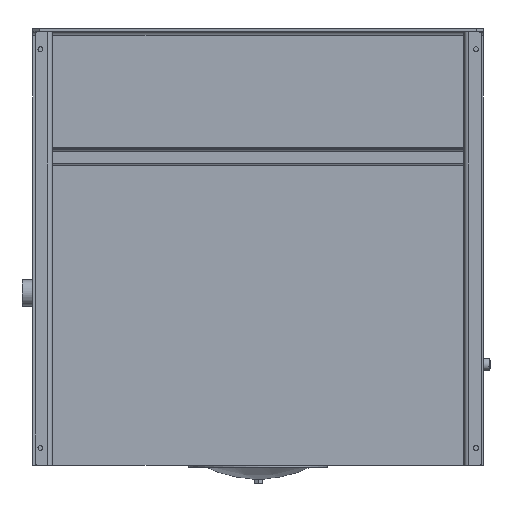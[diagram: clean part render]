
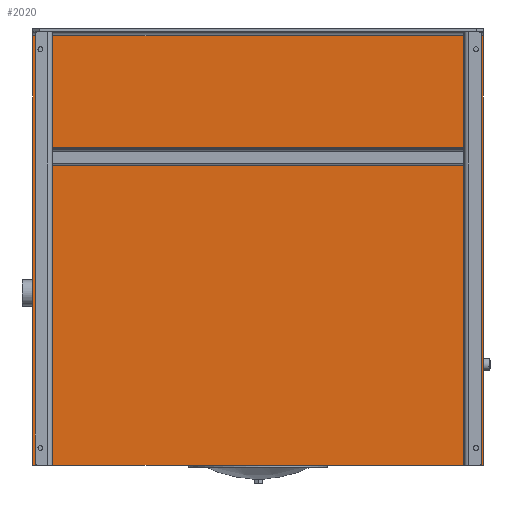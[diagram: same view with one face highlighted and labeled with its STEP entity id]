
A CAD part, front view. The second image highlights one B-rep face of the part: STEP entity #2020.
In plain terms, the highlighted planar face has unit normal (0, -1, 0).
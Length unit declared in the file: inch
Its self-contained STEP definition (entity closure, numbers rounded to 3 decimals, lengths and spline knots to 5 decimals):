
#145 = DIRECTION ( 'NONE',  ( 0., 0., -1. ) ) ;
#318 = CARTESIAN_POINT ( 'NONE',  ( 21.77512, -0.41019, 27.93271 ) ) ;
#436 = VERTEX_POINT ( 'NONE', #16967 ) ;
#1286 = VERTEX_POINT ( 'NONE', #11025 ) ;
#1788 = VECTOR ( 'NONE', #6428, 39.37008 ) ;
#1934 = DIRECTION ( 'NONE',  ( 0., 0., -1. ) ) ;
#1952 = DIRECTION ( 'NONE',  ( 0., -1., 0. ) ) ;
#2020 = ADVANCED_FACE ( 'NONE', ( #14705 ), #2126, .T. ) ;
#2126 = PLANE ( 'NONE',  #5844 ) ;
#2241 = CARTESIAN_POINT ( 'NONE',  ( -30.22488, -0.41019, -22.44229 ) ) ;
#2268 = EDGE_CURVE ( 'NONE', #436, #12550, #16544, .T. ) ;
#2663 = VECTOR ( 'NONE', #14330, 39.37008 ) ;
#2728 = VECTOR ( 'NONE', #145, 39.37008 ) ;
#3188 = LINE ( 'NONE', #17704, #2663 ) ;
#3988 = CARTESIAN_POINT ( 'NONE',  ( -30.22488, -0.41019, 27.08891 ) ) ;
#4106 = ORIENTED_EDGE ( 'NONE', *, *, #7836, .F. ) ;
#5284 = CARTESIAN_POINT ( 'NONE',  ( -30.22488, -0.41019, 27.08891 ) ) ;
#5844 = AXIS2_PLACEMENT_3D ( 'NONE', #2241, #1952, #1934 ) ;
#6194 = LINE ( 'NONE', #8083, #1788 ) ;
#6428 = DIRECTION ( 'NONE',  ( 0., 0., 1. ) ) ;
#6684 = ORIENTED_EDGE ( 'NONE', *, *, #13095, .F. ) ;
#7836 = EDGE_CURVE ( 'NONE', #1286, #19242, #6194, .T. ) ;
#8041 = CARTESIAN_POINT ( 'NONE',  ( 21.77512, -0.41019, -22.44229 ) ) ;
#8083 = CARTESIAN_POINT ( 'NONE',  ( -30.22488, -0.41019, 27.93271 ) ) ;
#10688 = DIRECTION ( 'NONE',  ( 1., 0., 0. ) ) ;
#11025 = CARTESIAN_POINT ( 'NONE',  ( -30.22488, -0.41019, -22.44229 ) ) ;
#12550 = VERTEX_POINT ( 'NONE', #8041 ) ;
#12832 = ORIENTED_EDGE ( 'NONE', *, *, #13382, .F. ) ;
#13095 = EDGE_CURVE ( 'NONE', #12550, #1286, #3188, .T. ) ;
#13382 = EDGE_CURVE ( 'NONE', #19242, #436, #20224, .T. ) ;
#14330 = DIRECTION ( 'NONE',  ( -1., 0., 0. ) ) ;
#14705 = FACE_OUTER_BOUND ( 'NONE', #20104, .T. ) ;
#15149 = VECTOR ( 'NONE', #10688, 39.37008 ) ;
#16260 = ORIENTED_EDGE ( 'NONE', *, *, #2268, .F. ) ;
#16544 = LINE ( 'NONE', #318, #2728 ) ;
#16967 = CARTESIAN_POINT ( 'NONE',  ( 21.77512, -0.41019, 27.08891 ) ) ;
#17704 = CARTESIAN_POINT ( 'NONE',  ( -30.22488, -0.41019, -22.44229 ) ) ;
#19242 = VERTEX_POINT ( 'NONE', #5284 ) ;
#20104 = EDGE_LOOP ( 'NONE', ( #16260, #12832, #4106, #6684 ) ) ;
#20224 = LINE ( 'NONE', #3988, #15149 ) ;
